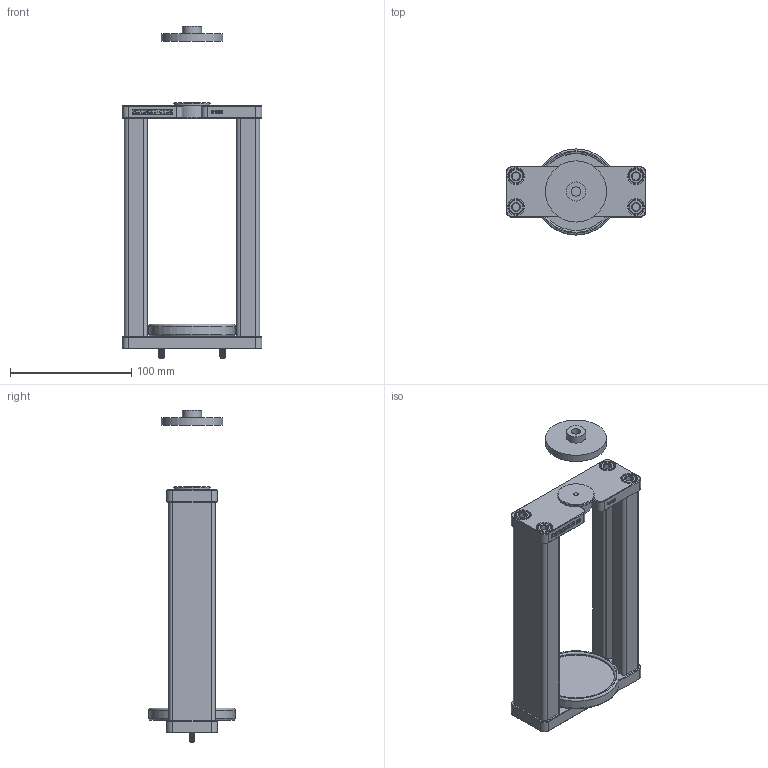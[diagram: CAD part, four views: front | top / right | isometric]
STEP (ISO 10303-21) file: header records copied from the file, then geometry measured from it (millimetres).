
FILE_DESCRIPTION((''),'2;1');
FILE_NAME('F:\CAD files\Itr\3D MARKETING MODELS\GRIPS\G1089\G1089.stp','2017-04-20T12:25:59',('mlampen'),(''),'Autodesk Inventor 2010','Autodesk Inventor 2010','');
FILE_SCHEMA(('AUTOMOTIVE_DESIGN { 1 0 10303 214 1 1 1 1 }'));
Length unit declared in the file: inch
Products named in the file (9): Assembly1; Part2; Part4; Part6; Part8; Part10; Part12; Part14; Part16
Assembly tree (8 placements, depth 2):
  Assembly1
    Part2
    Part4
    Part6
    Part8
    Part10
    Part12
    Part14
    Part16
Bounding box: 115.57 x 71.12 x 274.32 mm (x, y, z)
Volume: 341335.9 mm3; surface area: 101812.8 mm2
Topology: 8 solids, 8 shells, 978 faces, 2507 edges, 1609 vertices
Faces by surface type: plane 613, cylinder 223, cone 126, bspline 11, torus 5
Full cylindrical faces by diameter (mm): 4.75 x2, 4.763 x2, 4.953 x2, 5.156 x2, 7.722 x1, 7.938 x1, 8.89 x2, 11.906 x8, 13.462 x8, 15.875 x1, 25.4 x1, 30.48 x1, 50.546 x1, 63.5 x1, 71.12 x1
Entity records: 35527 total; most frequent: CARTESIAN_POINT 12565, ORIENTED_EDGE 4860, DIRECTION 4381, EDGE_CURVE 2430, VECTOR 1763, LINE 1763, VERTEX_POINT 1597, AXIS2_PLACEMENT_3D 1309
